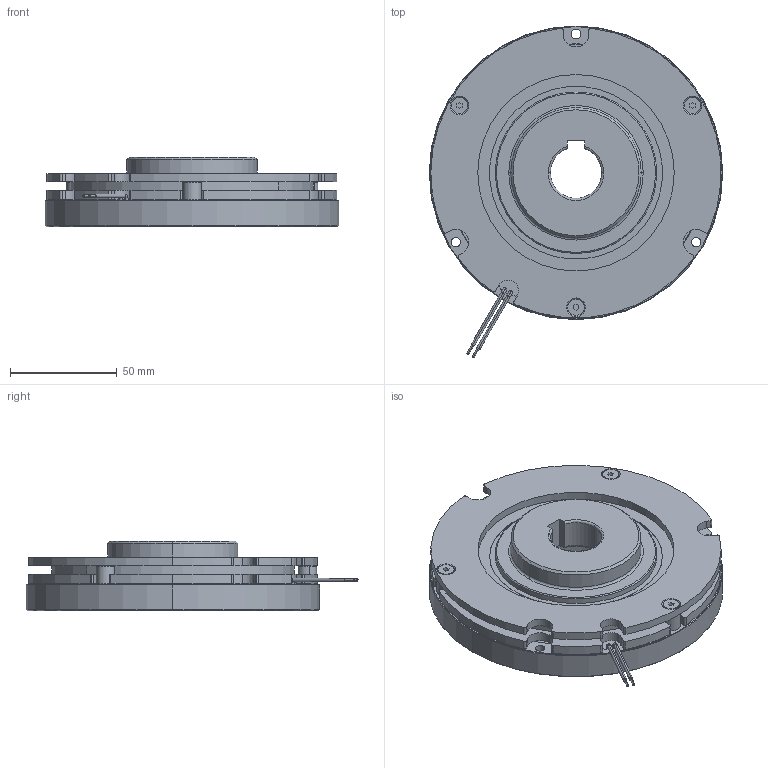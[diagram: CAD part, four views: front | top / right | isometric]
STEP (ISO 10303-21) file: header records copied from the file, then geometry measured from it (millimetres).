
FILE_DESCRIPTION (( 'STEP AP214' ), '1' );
FILE_NAME ('ÌÞÚ°·_BXR-12-20_B.STEP', '2017-08-08T10:05:53', ( 'MIKI' ), ( '' ), 'SwSTEP 2.0', 'SolidWorks 2012', '' );
FILE_SCHEMA (( 'AUTOMOTIVE_DESIGN' ));
Length unit declared in the file: millimetre
Products named in the file (1): 枌痚愷BXR-12-20_B
Bounding box: 137.5 x 155.49 x 32.7 mm (x, y, z)
Volume: 287658.1 mm3; surface area: 86235.7 mm2
Topology: 1 solids, 4 shells, 309 faces, 754 edges, 480 vertices
Faces by surface type: cylinder 164, plane 84, cone 47, torus 14
Entity records: 12731 total; most frequent: DIRECTION 1778, CARTESIAN_POINT 1586, ORIENTED_EDGE 1508, EDGE_CURVE 754, AXIS2_PLACEMENT_3D 720, VERTEX_POINT 480, CIRCLE 410, EDGE_LOOP 376
